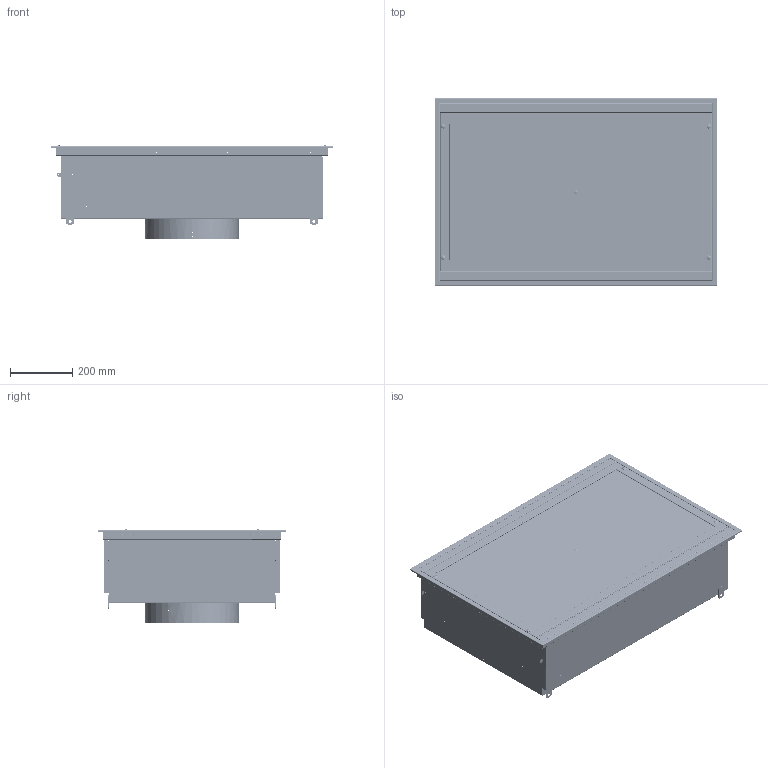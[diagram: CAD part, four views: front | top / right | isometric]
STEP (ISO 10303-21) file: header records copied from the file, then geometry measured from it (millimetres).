
FILE_DESCRIPTION (( 'STEP AP214' ), '1' );
FILE_NAME ('36 X 24_SSLFHFD_LED.STEP', '2025-07-25T15:51:42', ( '' ), ( '' ), 'SwSTEP 2.0', 'SolidWorks 2024', '' );
FILE_SCHEMA (( 'AUTOMOTIVE_DESIGN' ));
Length unit declared in the file: inch
Products named in the file (65): 36 X 24_SSLFHFD_LED; 060525-HFDs_H2E12_L03_CLIP, HEPA FILTER, SWING ARM; 060525-HFDs_H1N2_L03; 060525-HFDs_R2B1 SUB_L03; 060525-HFDs_R2B1_L03; 060525-HFDs_H2E11_L03_GUIDE, HEPA FILTER, SWING ARM; 060525-HFDs_H1V7_L03_WASHER, TEFLON: 0.50"OD x 0.25"ID x 0.025"th; 060525-HFDs_FC3E-A2_L03; 060525-HFDs_H1E3_L03; 060525-HFDs_H1B9_L03; 060525-HFDs_H1L1_L03; 060525-HFDs_H1V31_L03_WASHER, TEFLON: 0.50"OD x 0.25"ID x 0.025"th; 060525-HFDs_FC3E-A3_L03; 060525-HFDs_P1B1B_L03; 060525-HFDs_FACE SUB_L03; 060525-HFDs_BM5D_L03; 060525-HFDs_X6BA1_L03; 060525-HFDs_H2G12_L03; 060525-HFDs_H1A2_L03; 060525-HFDs_FC3E_L03; 060525-HFDs_H1B8_L03; 060525-HFDs_PLENUM MASTER_L03; 060525-HFDs_H2E5_L03; 060525-HFDs_H1M8_L03_H1M8; 060525-HFDs_H1Z25_L03_LABEL; "CHALLENGE."; 060525-HFDs_H1B4_L03; 060525-HFDs_SM2X3_L03; 060525-HFDs_H1E1_L03; 060525-HFDs_K2A2_L03; 060525-HFDs_X6BE_L03; 060525-HFDs_H1P11_L03; 060525-HFDs_P1B1B SUB_L03; 060525-HFDs_H1F1_L03_1_4 TURN SPRING; 060525-HFDs_Light Module-SUB_L03; 060525-HFDs_H1V20_L03; 060525-HFDs_FP1B20-A3_L03; 060525-HFDs_H1V10_L03_GROMMET - 0.387"ID; 1_2"HOLE; BLACK; 060525-HFDs_H1T7_L03_9531K23; 060525-HFDs_R5Z11_L03; 060525-HFDs_FP1B_L03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
Assembly tree (128 placements, depth 5):
  36 X 24_SSLFHFD_LED
    060525-HFDs_PLASTER SUB_L03
      060525-HFDs_FC3E_L03
        060525-HFDs_FC3E-A1_L03
        060525-HFDs_FC3E-A2_L03
        060525-HFDs_FC3E-A3_L03
        060525-HFDs_FC3E-A4_L03
        060525-HFDs_H2E2_L03_WELD CLIP, BOB FRAME  x4
        060525-HFDs_H2G12_L03  x4
        060525-HFDs_H1F1_L03_1_4 TURN SPRING  x4
        060525-HFDs_H2E11_L03_GUIDE, HEPA FILTER, SWING ARM  x6
        060525-HFDs_H2E12_L03_CLIP, HEPA FILTER, SWING ARM  x6
        060525-HFDs_H1V31_L03_WASHER, TEFLON: 0.50"OD x 0.25"ID x 0.025"th  x6
        060525-HFDs_H1Z25_L03_LABEL; "CHALLENGE."
        060525-HFDs_H1Z26_L03_LABEL; "CONCENTRATION"
      060525-HFDs_H1V20_L03  x2
      060525-HFDs_X6BD_L03  x2
      060525-HFDs_H1V10_L03_GROMMET - 0.387"ID; 1_2"HOLE; BLACK  x2
      060525-HFDs_Light Module-SUB_L03  x2
        060525-HFDs_X6BA1_L03
        060525-HFDs_X6BB_L03
        060525-HFDs_R5Z11_L03
        060525-HFDs_H1M8_L03_H1M8
        060525-HFDs_H1B9_L03
        060525-HFDs_H1D11_L03_91020A530
        060525-HFDs_X6B2_L03
        060525-HFDs_H1H42_L03
      060525-HFDs_PORT-SUB_L03  x2
        060525-HFDs_H1P11_L03
        060525-HFDs_H1T7_L03_9531K23
    060525-HFDs_FACE SUB_L03
      060525-HFDs_FP1B_L03
        060525-HFDs_FP1B20-A1_L03
        060525-HFDs_FP1B20-A2_L03
        060525-HFDs_FP1B20-A3_L03
        060525-HFDs_FP1B20-A4_L03
        060525-HFDs_H2E1_L03_WELD CLIP; 40º BEVEL FRAME  x4
        060525-HFDs_H1E1_L03  x4
        060525-HFDs_H1E2_L03  x4
        060525-HFDs_SAFETYCABLEASSEMBLY_L03  x2
          060525-HFDs_H1N2_L03
          060525-HFDs_H1E3_L03
        060525-HFDs_H1Z24_L03
    060525-HFDs_PERF SUB_L03
      060525-HFDs_H1T2_L03
      060525-HFDs_R2B1 SUB_L03
        060525-HFDs_R2B1_L03
    060525-HFDs_PLENUM MASTER_L03
      060525-HFDs_P1B1B SUB_L03
        060525-HFDs_P1B1B_L03
        060525-HFDs_H2E5_L03  x4
        060525-HFDs_X6BE_L03  x2
        060525-HFDs_H1V20_L03  x2
    060525-HFDs_C1C1C112_L03
    060525-HFDs_SSRD_L03
      060525-HFDs_H1L1_L03  x4
      060525-HFDs_BM5D_L03  x2
      060525-HFDs_SM2X3_L03
      060525-HFDs_SM3X4_L03
      060525-HFDs_H1A2_L03
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Bounding box: 908.05 x 603.25 x 299.81 mm (x, y, z)
Volume: 2089688.4 mm3; surface area: 4690345.7 mm2
Topology: 167 solids, 167 shells, 8200 faces, 20222 edges, 12753 vertices
Faces by surface type: plane 4367, cylinder 2274, cone 728, torus 556, bspline 253, sphere 22
Entity records: 116735 total; most frequent: CARTESIAN_POINT 32011, ORIENTED_EDGE 17066, DIRECTION 16736, EDGE_CURVE 8533, AXIS2_PLACEMENT_3D 5582, LINE 5572, VECTOR 5572, VERTEX_POINT 5423
